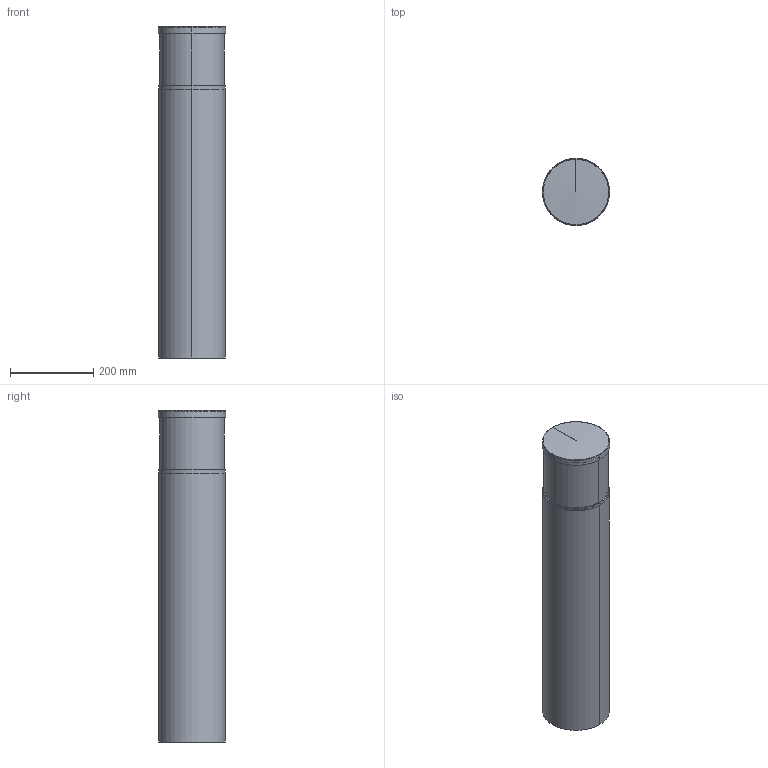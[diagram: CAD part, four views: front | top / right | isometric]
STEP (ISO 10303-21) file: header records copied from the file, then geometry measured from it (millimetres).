
FILE_DESCRIPTION(/* description */ (''),/* implementation_level */ '2;1');
FILE_NAME(/* name */ 'C:\Users\Franco Sartori E\Documents\FARO\DUPLICADO\Modelos\01_Digitalizados\2021\0_RUSH&SCREEN\03_Publicación\BOLLARD\750100.stp',/* time_stamp */ '2021-01-04T13:24:52+01:00',/* author */ ('Franco Sartori E'),/* organization */ (''),/* preprocessor_version */ 'ST-DEVELOPER v18.1',/* originating_system */ 'AutoCAD Mechanical',/* authorisation */ '');
FILE_SCHEMA (('AUTOMOTIVE_DESIGN { 1 0 10303 214 3 1 1 }'));
Length unit declared in the file: millimetre
Products named in the file (2): Product; 2_RUSH - RUSH-461449-Export
Assembly tree (1 placements, depth 2):
  Product
    2_RUSH - RUSH-461449-Export
Bounding box: 162 x 162 x 797.51 mm (x, y, z)
Volume: 1359778.9 mm3; surface area: 1026616.5 mm2
Topology: 7 solids, 7 shells, 216 faces, 513 edges, 307 vertices
Faces by surface type: cylinder 90, plane 75, cone 24, torus 21, sphere 6
Entity records: 7369 total; most frequent: CARTESIAN_POINT 2412, DIRECTION 1037, ORIENTED_EDGE 1012, EDGE_CURVE 506, AXIS2_PLACEMENT_3D 416, VERTEX_POINT 302, EDGE_LOOP 222, FACE_OUTER_BOUND 216
